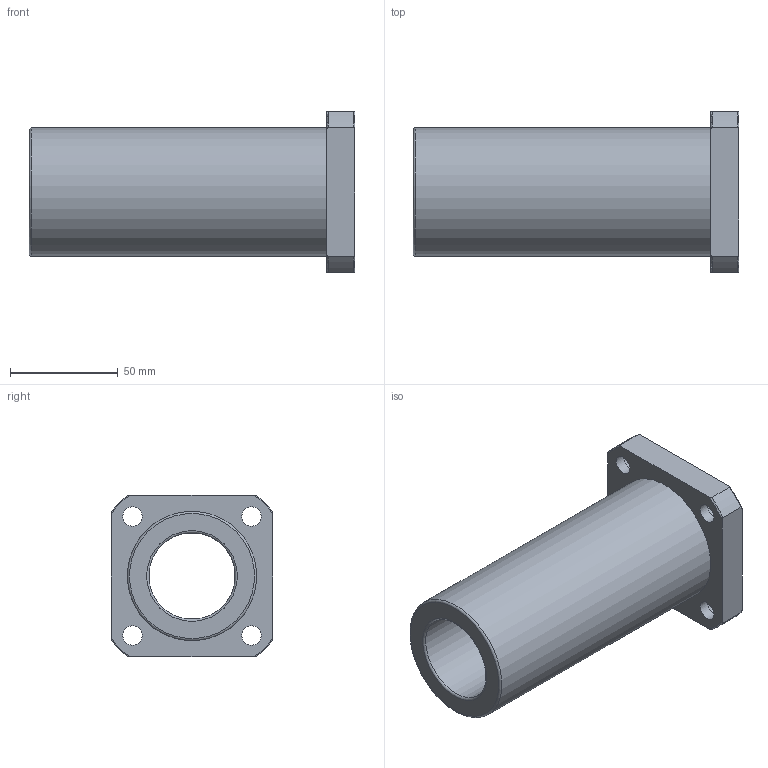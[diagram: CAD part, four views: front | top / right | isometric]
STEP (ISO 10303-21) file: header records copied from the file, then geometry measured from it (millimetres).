
FILE_DESCRIPTION(/* description */ (''),/* implementation_level */ '2;1');
FILE_NAME(/* name */ 'LMK40LUU',/* time_stamp */ '2019-07-09T15:48:52+02:00',/* author */ ('VĂ©gh MĂˇtĂ©'),/* organization */ ('Bearing Kft'),/* preprocessor_version */ 'ST-DEVELOPER v16.7',/* originating_system */ 'DEX',/* authorisation */ $);
FILE_SCHEMA (('AUTOMOTIVE_DESIGN {1 0 10303 214 3 1 1}'));
Length unit declared in the file: millimetre
Products named in the file (1): LMK40LUU
Bounding box: 151 x 75 x 75 mm (x, y, z)
Volume: 265845.7 mm3; surface area: 58482.5 mm2
Topology: 1 solids, 1 shells, 351 faces, 891 edges, 595 vertices
Faces by surface type: plane 267, bspline 57, cylinder 16, torus 11
Full cylindrical faces by diameter (mm): 9 x4, 14 x4, 40 x1, 60 x1
Entity records: 13538 total; most frequent: CARTESIAN_POINT 5471, ORIENTED_EDGE 1738, DIRECTION 1372, EDGE_CURVE 869, LINE 696, VECTOR 696, VERTEX_POINT 589, EDGE_LOOP 430
